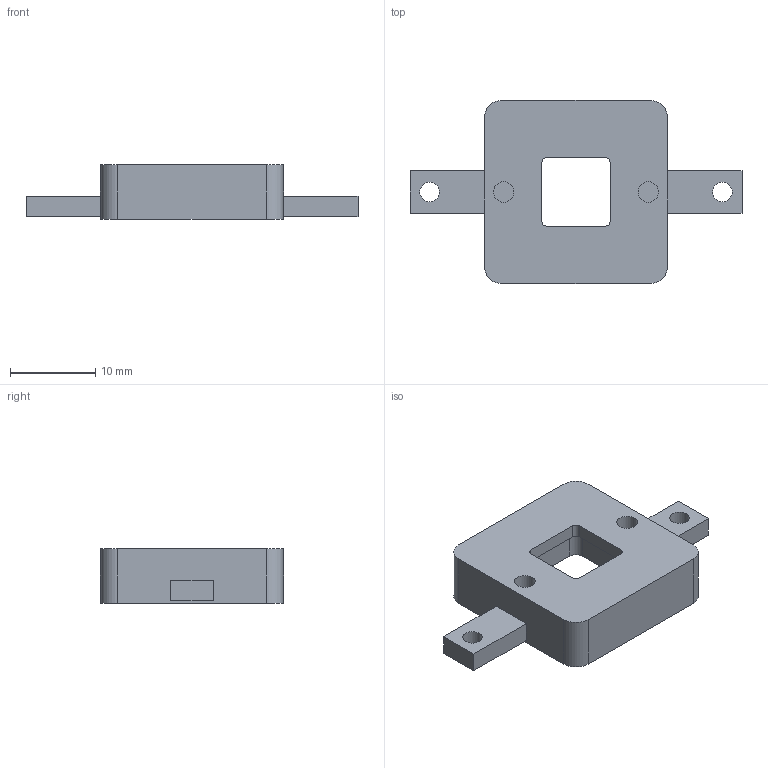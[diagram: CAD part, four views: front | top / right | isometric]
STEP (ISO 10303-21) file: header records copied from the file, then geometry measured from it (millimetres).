
FILE_DESCRIPTION(('Open CASCADE Model'),'2;1');
FILE_NAME('Open CASCADE Shape Model','2026-09-04T20:35:59',('Author'),( 'Open CASCADE'),'Open CASCADE STEP processor 7.7','Open CASCADE 7.7' ,'Unknown');
FILE_SCHEMA(('AUTOMOTIVE_DESIGN { 1 0 10303 214 1 1 1 1 }'));
Length unit declared in the file: millimetre
Products named in the file (1): Open CASCADE STEP translator 7.7 22
Bounding box: 39 x 21.5 x 6.4 mm (x, y, z)
Volume: 2230.5 mm3; surface area: 1946.4 mm2
Topology: 1 solids, 1 shells, 51 faces, 120 edges, 80 vertices
Faces by surface type: plane 31, cylinder 20
Full cylindrical faces by diameter (mm): 1.6 x4, 2.3 x2, 2.4 x2
Entity records: 3080 total; most frequent: CARTESIAN_POINT 612, DIRECTION 464, LINE 256, VECTOR 256, ORIENTED_EDGE 240, PCURVE 240, DEFINITIONAL_REPRESENTATION 240, EDGE_CURVE 120
